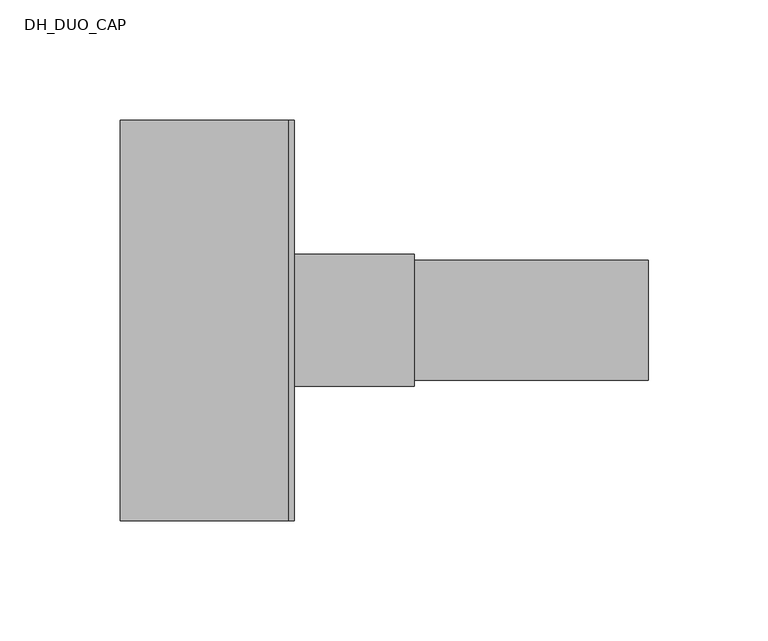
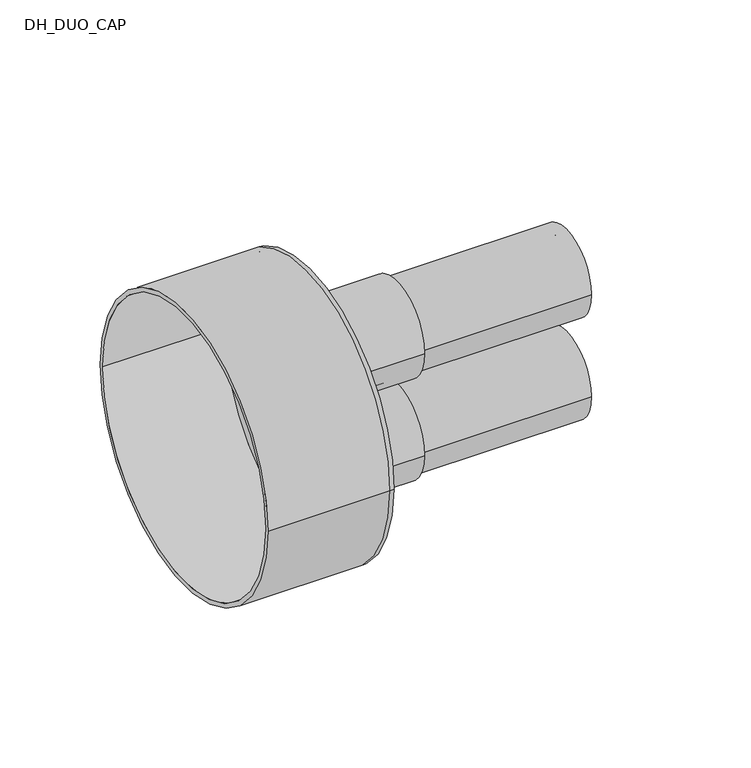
"""IFC4 building model written with IfcOpenShell, lengths in millimetres: pipe fitting geometry, DH_DUO_CAP : RAUTHERMEX DUO 7.4 Heating - Rubber Cap."""

from ifc_helpers import new_model, si_unit, point, frame, frame_2d, origin, place, context, project, spatial, polyline, circle_curve, trimmed, segment, composite_curve, outline, extrude, source, transform, mapped, element, save
from ifc_brep_helpers import plane_surface, cylinder_surface, revolved_surface, advanced_brep


def dh_duo_cap_466f777b(model_context):
    return source(origin(), model_context, "Body", "SolidModel", [
        extrude(outline(composite_curve([segment(trimmed(circle_curve(frame_2d((0.0, -31.0)), 25.0), [point((-25.0, -31.0))], [point((25.0, -31.0))], False, "CARTESIAN"), True, "CONTINUOUS"), segment(trimmed(circle_curve(frame_2d((0.0, -31.0)), 25.0), [point((25.0, -31.0))], [point((-25.0, -31.0))], False, "CARTESIAN"), True, "CONTINUOUS")], self_intersect=False), holes=[composite_curve([segment(trimmed(circle_curve(frame_2d((0.0, -31.0)), 18.1), [point((-18.1, -31.0))], [point((18.1, -31.0))], True, "CARTESIAN"), True, "CONTINUOUS"), segment(trimmed(circle_curve(frame_2d((0.0, -31.0)), 18.1), [point((18.1, -31.0))], [point((-18.1, -31.0))], True, "CARTESIAN"), True, "CONTINUOUS")], self_intersect=False)]), frame((0.0, 0.0, 0.0), z_axis=(1.0, 0.0, 0.0), x_axis=(0.0, 1.0, 0.0)), (0.0, 0.0, 1.0), 150.0),
        extrude(outline(composite_curve([segment(trimmed(circle_curve(frame_2d((0.0, 31.0)), 25.0), [point((-25.0, 31.0))], [point((25.0, 31.0))], False, "CARTESIAN"), True, "CONTINUOUS"), segment(trimmed(circle_curve(frame_2d((0.0, 31.0)), 25.0), [point((25.0, 31.0))], [point((-25.0, 31.0))], False, "CARTESIAN"), True, "CONTINUOUS")], self_intersect=False), holes=[composite_curve([segment(trimmed(circle_curve(frame_2d((0.0, 31.0)), 18.1), [point((-18.1, 31.0))], [point((18.1, 31.0))], True, "CARTESIAN"), True, "CONTINUOUS"), segment(trimmed(circle_curve(frame_2d((0.0, 31.0)), 18.1), [point((18.1, 31.0))], [point((-18.1, 31.0))], True, "CARTESIAN"), True, "CONTINUOUS")], self_intersect=False)]), frame((0.0, 0.0, 0.0), z_axis=(1.0, 0.0, 0.0), x_axis=(0.0, 1.0, 0.0)), (0.0, 0.0, 1.0), 150.0),
        advanced_brep(
        [(-70.0, -83.5, 0.0), (-70.0, 83.5, 0.0), (-70.0, -81.0, 0.0), (-70.0, 81.0, 0.0), (0.0, -81.0, 0.0), (0.0, 81.0, 0.0), (0.0, -83.5, 0.0), (0.0, 83.5, 0.0), (0.0, 25.0, 31.0), (0.0, -25.0, 31.0), (0.0, 25.0, -31.0), (0.0, -25.0, -31.0), (2.5, -83.5, 0.0), (2.5, 83.5, 0.0), (2.5, -25.0, 31.0), (2.5, 25.0, 31.0), (2.5, -25.0, -31.0), (2.5, 25.0, -31.0)],
        [
            (0, 1, circle_curve(frame((-70.0, 0.0, 0.0), z_axis=(-1.0, 0.0, 0.0), x_axis=(0.0, 1.0, 0.0)), 83.5)),
            (1, 0, circle_curve(frame((-70.0, 0.0, 0.0), z_axis=(-1.0, 0.0, 0.0), x_axis=(0.0, 1.0, 0.0)), 83.5)),
            (2, 3, circle_curve(frame((-70.0, 0.0, 0.0), z_axis=(1.0, 0.0, 0.0), x_axis=(0.0, 1.0, 0.0)), 81.0)),
            (3, 2, circle_curve(frame((-70.0, 0.0, 0.0), z_axis=(1.0, 0.0, 0.0), x_axis=(0.0, 1.0, 0.0)), 81.0)),
            (2, 4),
            (4, 5, circle_curve(frame((0.0, 0.0, 0.0), z_axis=(1.0, 0.0, 0.0), x_axis=(0.0, 1.0, 0.0)), 81.0)),
            (5, 3),
            (5, 4, circle_curve(frame((0.0, 0.0, 0.0), z_axis=(1.0, 0.0, 0.0), x_axis=(0.0, 1.0, 0.0)), 81.0)),
            (0, 6),
            (6, 7, circle_curve(frame((0.0, 0.0, 0.0), z_axis=(-1.0, 0.0, 0.0), x_axis=(0.0, 1.0, 0.0)), 83.5)),
            (7, 1),
            (7, 6, circle_curve(frame((0.0, 0.0, 0.0), z_axis=(-1.0, 0.0, 0.0), x_axis=(0.0, 1.0, 0.0)), 83.5)),
            (8, 9, circle_curve(frame((0.0, 0.0, 31.0), z_axis=(1.0, 0.0, 0.0), x_axis=(0.0, 1.0, 0.0)), 25.0)),
            (9, 8, circle_curve(frame((0.0, 0.0, 31.0), z_axis=(1.0, 0.0, 0.0), x_axis=(0.0, 1.0, 0.0)), 25.0)),
            (10, 11, circle_curve(frame((0.0, 0.0, -31.0), z_axis=(1.0, 0.0, 0.0), x_axis=(0.0, 1.0, 0.0)), 25.0)),
            (11, 10, circle_curve(frame((0.0, 0.0, -31.0), z_axis=(1.0, 0.0, 0.0), x_axis=(0.0, 1.0, 0.0)), 25.0)),
            (12, 13, circle_curve(frame((2.5, 0.0, 0.0), z_axis=(1.0, 0.0, 0.0), x_axis=(0.0, 1.0, 0.0)), 83.5)),
            (13, 12, circle_curve(frame((2.5, 0.0, 0.0), z_axis=(1.0, 0.0, 0.0), x_axis=(0.0, 1.0, 0.0)), 83.5)),
            (14, 15, circle_curve(frame((2.5, 0.0, 31.0), z_axis=(-1.0, 0.0, 0.0), x_axis=(0.0, 1.0, 0.0)), 25.0)),
            (15, 14, circle_curve(frame((2.5, 0.0, 31.0), z_axis=(-1.0, 0.0, 0.0), x_axis=(0.0, 1.0, 0.0)), 25.0)),
            (16, 17, circle_curve(frame((2.5, 0.0, -31.0), z_axis=(-1.0, 0.0, 0.0), x_axis=(0.0, 1.0, 0.0)), 25.0)),
            (17, 16, circle_curve(frame((2.5, 0.0, -31.0), z_axis=(-1.0, 0.0, 0.0), x_axis=(0.0, 1.0, 0.0)), 25.0)),
            (13, 7),
            (6, 12),
            (8, 15),
            (14, 9),
            (10, 17),
            (16, 11),
        ],
        [
            plane_surface(frame((-70.0, 0.0, 0.0), z_axis=(-1.0, 0.0, 0.0), x_axis=(0.0, 0.0, 1.0))),
            revolved_surface(polyline([(0.0, 81.0, 0.0), (-70.0, 81.0, 0.0)]), (-70.0, 0.0, 0.0), (1.0, 0.0, 0.0)),
            cylinder_surface(frame((-70.0, 0.0, 0.0), z_axis=(-1.0, 0.0, 0.0), x_axis=(0.0, 1.0, 0.0)), 83.5),
            plane_surface(frame((0.0, 0.0, 0.0), z_axis=(-1.0, 0.0, 0.0), x_axis=(0.0, 0.0, 1.0))),
            plane_surface(frame((2.5, 0.0, 0.0), z_axis=(1.0, 0.0, 0.0), x_axis=(0.0, 0.0, 1.0))),
            cylinder_surface(frame((0.0, 0.0, 0.0), z_axis=(-1.0, 0.0, 0.0), x_axis=(0.0, 1.0, 0.0)), 83.5),
            revolved_surface(polyline([(0.0, 25.0, 31.0), (2.5, 25.0, 31.0)]), (0.0, 0.0, 31.0), (-1.0, 0.0, 0.0)),
            revolved_surface(polyline([(0.0, 25.0, -31.0), (2.5, 25.0, -31.0)]), (0.0, 0.0, -31.0), (-1.0, 0.0, 0.0)),
        ],
        [
            (0, [[1, 2], [3, 4]]),
            (1, [[-3, 5, 6, 7]]),
            (1, [[-4, -7, 8, -5]]),
            (2, [[-1, 9, 10, 11]]),
            (2, [[-2, -11, 12, -9]]),
            (3, [[-6, -8], [13, 14], [15, 16]]),
            (4, [[17, 18], [19, 20], [21, 22]]),
            (5, [[-18, 23, -10, 24]]),
            (5, [[-17, -24, -12, -23]]),
            (6, [[25, -19, 26, -13]]),
            (6, [[-25, -14, -26, -20]]),
            (7, [[27, -21, 28, -15]]),
            (7, [[-27, -16, -28, -22]]),
        ],
    ),
        extrude(outline(composite_curve([segment(trimmed(circle_curve(frame_2d((0.0, -31.0)), 27.5), [point((-27.5, -31.0))], [point((27.5, -31.0))], False, "CARTESIAN"), True, "CONTINUOUS"), segment(trimmed(circle_curve(frame_2d((0.0, -31.0)), 27.5), [point((27.5, -31.0))], [point((-27.5, -31.0))], False, "CARTESIAN"), True, "CONTINUOUS")], self_intersect=False), holes=[composite_curve([segment(trimmed(circle_curve(frame_2d((0.0, -31.0)), 25.0), [point((-25.0, -31.0))], [point((25.0, -31.0))], True, "CARTESIAN"), True, "CONTINUOUS"), segment(trimmed(circle_curve(frame_2d((0.0, -31.0)), 25.0), [point((25.0, -31.0))], [point((-25.0, -31.0))], True, "CARTESIAN"), True, "CONTINUOUS")], self_intersect=False)]), frame((2.5, 0.0, 0.0), z_axis=(1.0, 0.0, 0.0), x_axis=(0.0, 1.0, 0.0)), (0.0, 0.0, 1.0), 50.0),
        extrude(outline(composite_curve([segment(trimmed(circle_curve(frame_2d((0.0, 31.0)), 27.5), [point((-27.5, 31.0))], [point((27.5, 31.0))], False, "CARTESIAN"), True, "CONTINUOUS"), segment(trimmed(circle_curve(frame_2d((0.0, 31.0)), 27.5), [point((27.5, 31.0))], [point((-27.5, 31.0))], False, "CARTESIAN"), True, "CONTINUOUS")], self_intersect=False), holes=[composite_curve([segment(trimmed(circle_curve(frame_2d((0.0, 31.0)), 25.0), [point((-25.0, 31.0))], [point((25.0, 31.0))], True, "CARTESIAN"), True, "CONTINUOUS"), segment(trimmed(circle_curve(frame_2d((0.0, 31.0)), 25.0), [point((25.0, 31.0))], [point((-25.0, 31.0))], True, "CARTESIAN"), True, "CONTINUOUS")], self_intersect=False)]), frame((2.5, 0.0, 0.0), z_axis=(1.0, 0.0, 0.0), x_axis=(0.0, 1.0, 0.0)), (0.0, 0.0, 1.0), 50.0),
    ])


if __name__ == "__main__":
    model = new_model("IFC4")
    model_context = context("Model", 3, world=origin())
    ifc_project = project(units=[si_unit("LENGTHUNIT", "METRE", prefix="MILLI")], contexts=[model_context])
    site = spatial("IfcSite", under=ifc_project)
    building = spatial("IfcBuilding", under=site)
    placement = place(None, origin())
    dh_duo_cap_shape = dh_duo_cap_466f777b(model_context)
    element("IfcPipeFitting", 1, ObjectType="DH_DUO_CAP : RAUTHERMEX DUO 7.4 Heating - Rubber Cap", at=placement, inside=building, context=model_context, shape_type="MappedRepresentation", body=[
        mapped(dh_duo_cap_shape, transform((0.0, 0.0, 0.0), x_axis=(1.0, 0.0, 0.0), y_axis=(0.0, 1.0, 0.0), z_axis=(0.0, 0.0, 1.0))),
    ])
    save(model, "model.ifc")
